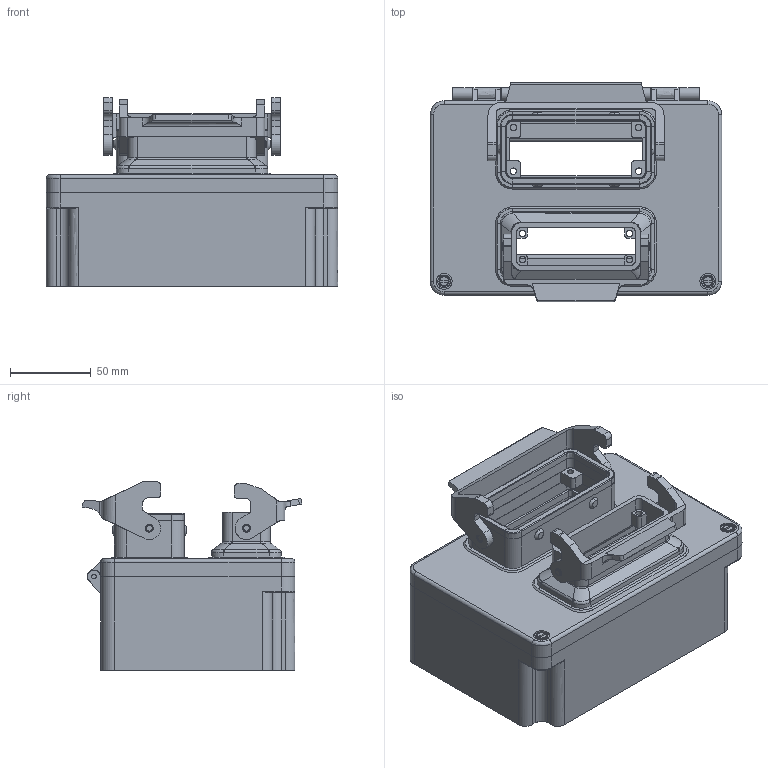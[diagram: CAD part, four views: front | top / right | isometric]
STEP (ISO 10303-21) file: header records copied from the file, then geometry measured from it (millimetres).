
FILE_DESCRIPTION( ( 'STEP AP214' ), '1' );
FILE_NAME( 'C:/Dokumente und Einstellungen/Administrator/Desktop/47 Kabelboxen/G4/3/gr_4_16e_16a-bb.stp', '2006-09-10T19:37:50', ( ' ' ), ( ' ' ), 'XStep 1.0', 'VISICAD', ' ' );
FILE_SCHEMA( ( 'automotive_design' ) );
Length unit declared in the file: millimetre
Products named in the file (1134): 1; 2; 3; 4; 5; 6; 7; 8; 9; 10; 11; 12; 13; 14; 15; 16; 17; 18; 19; 20; 21; 22; 23; 24; 25; 26; 27; 28; 29; 30; 31; 32; 33; 34; 35; 36; 37; 38; 39; 40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
Bounding box: 180 x 135.72 x 116.7 mm (x, y, z)
Surface area: 199972.1 mm2 (no closed solid volume)
Topology: 0 solids, 1134 shells, 1134 faces, 5759 edges, 5759 vertices
Faces by surface type: plane 499, bspline 340, revolution 254, cylinder 41
Entity records: 124713 total; most frequent: CARTESIAN_POINT 56955, DIRECTION 7986, ORIENTED_EDGE 5759, EDGE_CURVE 5759, VERTEX_POINT 5759, LINE 3118, VECTOR 3118, AXIS2_PLACEMENT_3D 2307
